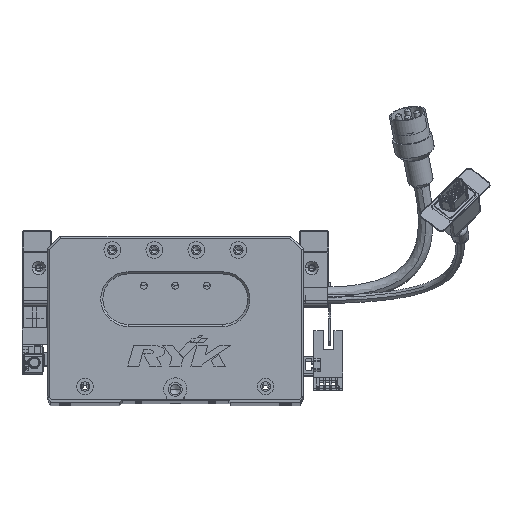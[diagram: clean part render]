
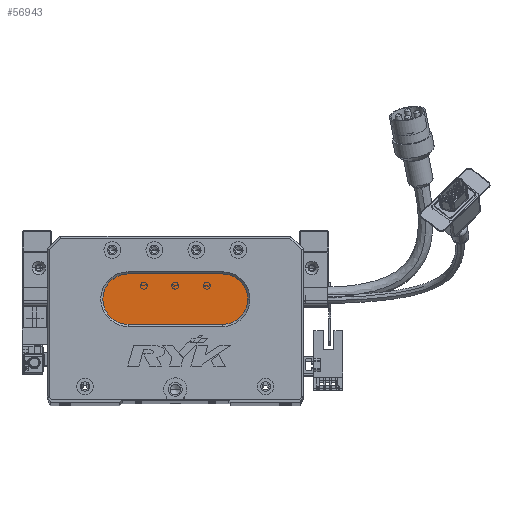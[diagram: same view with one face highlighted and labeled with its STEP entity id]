
A CAD part, top view. The second image highlights one B-rep face of the part: STEP entity #56943.
In plain terms, the highlighted planar face has unit normal (0, 0, 1) as drawn and (0, 0, -1) by its records, which use the part's own axes.
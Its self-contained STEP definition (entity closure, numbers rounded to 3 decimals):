
#1151 = VECTOR ( 'NONE', #40758, 1000. ) ;
#1351 = ORIENTED_EDGE ( 'NONE', *, *, #13151, .T. ) ;
#3415 = DIRECTION ( 'NONE',  ( 1., 0., 0. ) ) ;
#4377 = VERTEX_POINT ( 'NONE', #6778 ) ;
#6197 = EDGE_CURVE ( 'NONE', #68071, #31545, #68486, .T. ) ;
#6778 = CARTESIAN_POINT ( 'NONE',  ( 26.5, 48., 13. ) ) ;
#8211 = CARTESIAN_POINT ( 'NONE',  ( 38.5, 48., 13. ) ) ;
#9495 = ORIENTED_EDGE ( 'NONE', *, *, #46286, .T. ) ;
#10154 = CARTESIAN_POINT ( 'NONE',  ( 83.5, 60., 13. ) ) ;
#13151 = EDGE_CURVE ( 'NONE', #4377, #56342, #63796, .T. ) ;
#13774 = EDGE_CURVE ( 'NONE', #56342, #20648, #64286, .T. ) ;
#16860 = ORIENTED_EDGE ( 'NONE', *, *, #13774, .T. ) ;
#17204 = DIRECTION ( 'NONE',  ( -1., 0., 0. ) ) ;
#17699 = AXIS2_PLACEMENT_3D ( 'NONE', #8211, #21120, #51128 ) ;
#20648 = VERTEX_POINT ( 'NONE', #61083 ) ;
#21120 = DIRECTION ( 'NONE',  ( 0., 0., -1. ) ) ;
#22534 = CARTESIAN_POINT ( 'NONE',  ( 38.5, 36., 13. ) ) ;
#28685 = CARTESIAN_POINT ( 'NONE',  ( 83.5, 36., 13. ) ) ;
#28998 = CARTESIAN_POINT ( 'NONE',  ( 83.5, 48., 13. ) ) ;
#31545 = VERTEX_POINT ( 'NONE', #22534 ) ;
#33790 = AXIS2_PLACEMENT_3D ( 'NONE', #28998, #78910, #17204 ) ;
#35929 = PLANE ( 'NONE',  #33790 ) ;
#40758 = DIRECTION ( 'NONE',  ( -1., 0., 0. ) ) ;
#44268 = AXIS2_PLACEMENT_3D ( 'NONE', #59389, #78661, #71454 ) ;
#45998 = CARTESIAN_POINT ( 'NONE',  ( 38.5, 60., 13. ) ) ;
#46286 = EDGE_CURVE ( 'NONE', #20648, #68071, #67721, .T. ) ;
#48585 = FACE_OUTER_BOUND ( 'NONE', #49367, .T. ) ;
#49367 = EDGE_LOOP ( 'NONE', ( #9495, #55718, #62799, #1351, #16860 ) ) ;
#51128 = DIRECTION ( 'NONE',  ( -1., 0., 0. ) ) ;
#53633 = DIRECTION ( 'NONE',  ( -1., 0., 0. ) ) ;
#55718 = ORIENTED_EDGE ( 'NONE', *, *, #6197, .T. ) ;
#56342 = VERTEX_POINT ( 'NONE', #45998 ) ;
#56943 = ADVANCED_FACE ( 'NONE', ( #48585 ), #35929, .T. ) ;
#59389 = CARTESIAN_POINT ( 'NONE',  ( 38.5, 48., 13. ) ) ;
#59828 = CARTESIAN_POINT ( 'NONE',  ( 83.5, 48., 13. ) ) ;
#61083 = CARTESIAN_POINT ( 'NONE',  ( 83.5, 60., 13. ) ) ;
#62799 = ORIENTED_EDGE ( 'NONE', *, *, #70718, .T. ) ;
#63796 = CIRCLE ( 'NONE', #17699, 12. ) ;
#64286 = LINE ( 'NONE', #10154, #78657 ) ;
#65687 = CIRCLE ( 'NONE', #44268, 12. ) ;
#67139 = AXIS2_PLACEMENT_3D ( 'NONE', #59828, #78341, #53633 ) ;
#67721 = CIRCLE ( 'NONE', #67139, 12. ) ;
#68071 = VERTEX_POINT ( 'NONE', #68562 ) ;
#68486 = LINE ( 'NONE', #28685, #1151 ) ;
#68562 = CARTESIAN_POINT ( 'NONE',  ( 83.5, 36., 13. ) ) ;
#70718 = EDGE_CURVE ( 'NONE', #31545, #4377, #65687, .T. ) ;
#71454 = DIRECTION ( 'NONE',  ( -1., 0., 0. ) ) ;
#78341 = DIRECTION ( 'NONE',  ( 0., 0., -1. ) ) ;
#78657 = VECTOR ( 'NONE', #3415, 1000. ) ;
#78661 = DIRECTION ( 'NONE',  ( 0., 0., -1. ) ) ;
#78910 = DIRECTION ( 'NONE',  ( 0., 0., -1. ) ) ;
